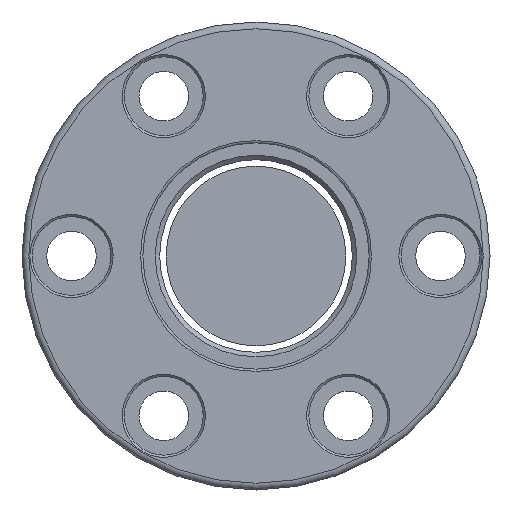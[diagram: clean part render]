
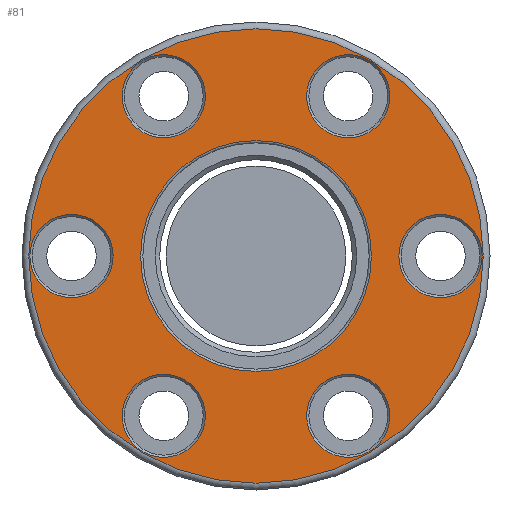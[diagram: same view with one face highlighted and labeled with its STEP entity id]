
A CAD part, front view. The second image highlights one B-rep face of the part: STEP entity #81.
In plain terms, the highlighted planar face has unit normal (0, -1, 0).
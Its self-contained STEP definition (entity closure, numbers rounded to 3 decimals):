
#65=PLANE('',#653);
#81=ADVANCED_FACE('',(#148,#149,#150,#151,#152,#153,#154,#155),#65,.T.);
#148=FACE_BOUND('',#258,.T.);
#149=FACE_BOUND('',#259,.T.);
#150=FACE_BOUND('',#260,.T.);
#151=FACE_BOUND('',#261,.T.);
#152=FACE_BOUND('',#262,.T.);
#153=FACE_BOUND('',#263,.T.);
#154=FACE_BOUND('',#264,.T.);
#155=FACE_BOUND('',#265,.T.);
#258=EDGE_LOOP('',(#368));
#259=EDGE_LOOP('',(#369));
#260=EDGE_LOOP('',(#370));
#261=EDGE_LOOP('',(#371));
#262=EDGE_LOOP('',(#372));
#263=EDGE_LOOP('',(#373));
#264=EDGE_LOOP('',(#374));
#265=EDGE_LOOP('',(#375));
#368=ORIENTED_EDGE('',*,*,#531,.T.);
#369=ORIENTED_EDGE('',*,*,#532,.T.);
#370=ORIENTED_EDGE('',*,*,#533,.T.);
#371=ORIENTED_EDGE('',*,*,#534,.T.);
#372=ORIENTED_EDGE('',*,*,#535,.T.);
#373=ORIENTED_EDGE('',*,*,#536,.T.);
#374=ORIENTED_EDGE('',*,*,#537,.T.);
#375=ORIENTED_EDGE('',*,*,#538,.T.);
#476=VERTEX_POINT('',#966);
#477=VERTEX_POINT('',#968);
#478=VERTEX_POINT('',#970);
#479=VERTEX_POINT('',#972);
#480=VERTEX_POINT('',#974);
#481=VERTEX_POINT('',#976);
#482=VERTEX_POINT('',#978);
#483=VERTEX_POINT('',#980);
#531=EDGE_CURVE('',#476,#476,#586,.T.);
#532=EDGE_CURVE('',#477,#477,#587,.T.);
#533=EDGE_CURVE('',#478,#478,#588,.T.);
#534=EDGE_CURVE('',#479,#479,#589,.T.);
#535=EDGE_CURVE('',#480,#480,#590,.T.);
#536=EDGE_CURVE('',#481,#481,#591,.T.);
#537=EDGE_CURVE('',#482,#482,#592,.T.);
#538=EDGE_CURVE('',#483,#483,#593,.T.);
#586=CIRCLE('',#645,25.65);
#587=CIRCLE('',#646,50.5);
#588=CIRCLE('',#647,9.25);
#589=CIRCLE('',#648,9.25);
#590=CIRCLE('',#649,9.25);
#591=CIRCLE('',#650,9.25);
#592=CIRCLE('',#651,9.25);
#593=CIRCLE('',#652,9.25);
#645=AXIS2_PLACEMENT_3D('',#965,#757,#758);
#646=AXIS2_PLACEMENT_3D('',#967,#759,#760);
#647=AXIS2_PLACEMENT_3D('',#969,#761,#762);
#648=AXIS2_PLACEMENT_3D('',#971,#763,#764);
#649=AXIS2_PLACEMENT_3D('',#973,#765,#766);
#650=AXIS2_PLACEMENT_3D('',#975,#767,#768);
#651=AXIS2_PLACEMENT_3D('',#977,#769,#770);
#652=AXIS2_PLACEMENT_3D('',#979,#771,#772);
#653=AXIS2_PLACEMENT_3D('',#981,#773,#774);
#757=DIRECTION('',(0.,1.,0.));
#758=DIRECTION('',(0.,0.,-1.));
#759=DIRECTION('',(0.,-1.,0.));
#760=DIRECTION('',(0.,0.,-1.));
#761=DIRECTION('',(0.,1.,0.));
#762=DIRECTION('',(0.,0.,-1.));
#763=DIRECTION('',(0.,1.,0.));
#764=DIRECTION('',(0.,0.,-1.));
#765=DIRECTION('',(0.,1.,0.));
#766=DIRECTION('',(0.,0.,-1.));
#767=DIRECTION('',(0.,1.,0.));
#768=DIRECTION('',(0.,0.,-1.));
#769=DIRECTION('',(0.,1.,0.));
#770=DIRECTION('',(0.,0.,-1.));
#771=DIRECTION('',(0.,1.,0.));
#772=DIRECTION('',(0.,0.,-1.));
#773=DIRECTION('',(0.,-1.,0.));
#774=DIRECTION('',(0.,0.,-1.));
#965=CARTESIAN_POINT('',(0.,0.,0.));
#966=CARTESIAN_POINT('',(0.,0.,-25.65));
#967=CARTESIAN_POINT('',(0.,0.,0.));
#968=CARTESIAN_POINT('',(0.,0.,-50.5));
#969=CARTESIAN_POINT('',(20.5,0.,-35.507));
#970=CARTESIAN_POINT('',(20.5,0.,-44.757));
#971=CARTESIAN_POINT('',(-20.5,0.,-35.507));
#972=CARTESIAN_POINT('',(-20.5,0.,-44.757));
#973=CARTESIAN_POINT('',(-20.5,0.,35.507));
#974=CARTESIAN_POINT('',(-20.5,0.,26.257));
#975=CARTESIAN_POINT('',(20.5,0.,35.507));
#976=CARTESIAN_POINT('',(20.5,0.,26.257));
#977=CARTESIAN_POINT('',(41.,0.,0.));
#978=CARTESIAN_POINT('',(41.,0.,-9.25));
#979=CARTESIAN_POINT('',(-41.,0.,0.));
#980=CARTESIAN_POINT('',(-41.,0.,-9.25));
#981=CARTESIAN_POINT('',(0.,0.,0.));
